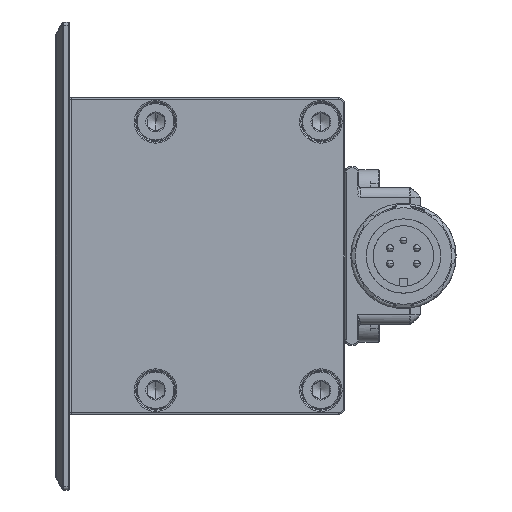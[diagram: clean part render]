
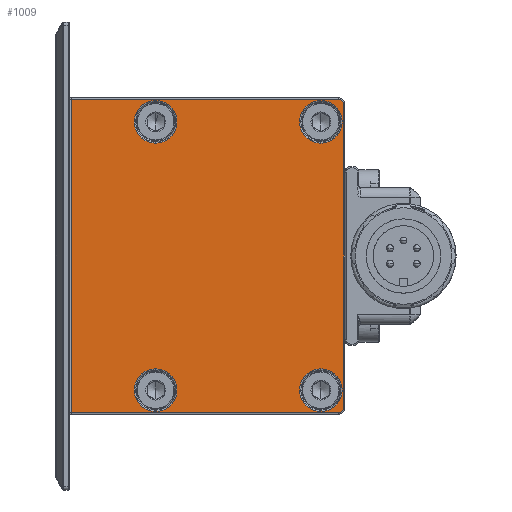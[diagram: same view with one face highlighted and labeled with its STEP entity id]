
A CAD part, left-side view. The second image highlights one B-rep face of the part: STEP entity #1009.
In plain terms, the highlighted planar face has unit normal (-1, 0, 0).
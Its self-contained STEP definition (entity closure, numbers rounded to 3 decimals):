
#249 = CARTESIAN_POINT ( 'NONE',  ( -125., -12.5, -19.5 ) ) ;
#286 = VERTEX_POINT ( 'NONE', #39481 ) ;
#677 = CARTESIAN_POINT ( 'NONE',  ( -125., -0.2, 22.8 ) ) ;
#725 = CARTESIAN_POINT ( 'NONE',  ( -125., -36.5, -19.5 ) ) ;
#1009 = ADVANCED_FACE ( 'NONE', ( #40998, #24252, #25090, #15061, #24656 ), #5603, .F. ) ;
#1252 = VERTEX_POINT ( 'NONE', #15472 ) ;
#1305 = VERTEX_POINT ( 'NONE', #16295 ) ;
#1923 = CARTESIAN_POINT ( 'NONE',  ( -125., -12.5, -22.6 ) ) ;
#2407 = EDGE_LOOP ( 'NONE', ( #4110, #33853 ) ) ;
#2636 = AXIS2_PLACEMENT_3D ( 'NONE', #22798, #5451, #31796 ) ;
#3445 = CARTESIAN_POINT ( 'NONE',  ( -125., -39.8, 22. ) ) ;
#3843 = CIRCLE ( 'NONE', #22314, 3.1 ) ;
#4110 = ORIENTED_EDGE ( 'NONE', *, *, #22986, .T. ) ;
#4475 = EDGE_CURVE ( 'NONE', #25481, #24957, #22811, .T. ) ;
#4557 = LINE ( 'NONE', #19650, #23207 ) ;
#4636 = CARTESIAN_POINT ( 'NONE',  ( -125., -36.5, 16.4 ) ) ;
#4676 = VECTOR ( 'NONE', #16361, 1000. ) ;
#5450 = ORIENTED_EDGE ( 'NONE', *, *, #35966, .F. ) ;
#5451 = DIRECTION ( 'NONE',  ( 1., 0., 0. ) ) ;
#5598 = VECTOR ( 'NONE', #40254, 1000. ) ;
#5603 = PLANE ( 'NONE',  #14639 ) ;
#6021 = EDGE_CURVE ( 'NONE', #13916, #6840, #36406, .T. ) ;
#6075 = EDGE_LOOP ( 'NONE', ( #20806, #9644, #5450, #27859, #28019, #22206 ) ) ;
#6267 = VERTEX_POINT ( 'NONE', #31460 ) ;
#6840 = VERTEX_POINT ( 'NONE', #4636 ) ;
#7007 = ORIENTED_EDGE ( 'NONE', *, *, #12437, .T. ) ;
#7033 = DIRECTION ( 'NONE',  ( 0., 0., 1. ) ) ;
#7100 = DIRECTION ( 'NONE',  ( 1., 0., 0. ) ) ;
#7684 = CIRCLE ( 'NONE', #22062, 3.1 ) ;
#9140 = AXIS2_PLACEMENT_3D ( 'NONE', #40066, #27778, #37057 ) ;
#9644 = ORIENTED_EDGE ( 'NONE', *, *, #21797, .F. ) ;
#10039 = EDGE_CURVE ( 'NONE', #33791, #10528, #13366, .T. ) ;
#10528 = VERTEX_POINT ( 'NONE', #34913 ) ;
#12074 = DIRECTION ( 'NONE',  ( 0., 0., 1. ) ) ;
#12437 = EDGE_CURVE ( 'NONE', #6267, #286, #21841, .T. ) ;
#12810 = DIRECTION ( 'NONE',  ( 1., 0., 0. ) ) ;
#13343 = DIRECTION ( 'NONE',  ( 0., 0., 1. ) ) ;
#13366 = LINE ( 'NONE', #677, #4676 ) ;
#13916 = VERTEX_POINT ( 'NONE', #22410 ) ;
#14447 = CARTESIAN_POINT ( 'NONE',  ( -125., -39.8, 22. ) ) ;
#14639 = AXIS2_PLACEMENT_3D ( 'NONE', #14641, #28494, #24472 ) ;
#14641 = CARTESIAN_POINT ( 'NONE',  ( -125., -40., 0. ) ) ;
#15061 = FACE_BOUND ( 'NONE', #35308, .T. ) ;
#15177 = DIRECTION ( 'NONE',  ( 0., 0., -1. ) ) ;
#15464 = AXIS2_PLACEMENT_3D ( 'NONE', #23650, #30680, #27465 ) ;
#15472 = CARTESIAN_POINT ( 'NONE',  ( -125., -39.8, -22. ) ) ;
#15571 = ORIENTED_EDGE ( 'NONE', *, *, #22355, .T. ) ;
#15967 = CIRCLE ( 'NONE', #29596, 3.1 ) ;
#16295 = CARTESIAN_POINT ( 'NONE',  ( -125., -39., -22.8 ) ) ;
#16361 = DIRECTION ( 'NONE',  ( 0., 0., -1. ) ) ;
#16919 = CARTESIAN_POINT ( 'NONE',  ( -125., -12.5, 16.4 ) ) ;
#17533 = DIRECTION ( 'NONE',  ( 1., 0., 0. ) ) ;
#17753 = AXIS2_PLACEMENT_3D ( 'NONE', #41509, #19413, #35710 ) ;
#17808 = EDGE_CURVE ( 'NONE', #1252, #1305, #33894, .T. ) ;
#17904 = AXIS2_PLACEMENT_3D ( 'NONE', #35241, #25943, #12074 ) ;
#19413 = DIRECTION ( 'NONE',  ( 1., 0., 0. ) ) ;
#19650 = CARTESIAN_POINT ( 'NONE',  ( -125., -0.2, 22.8 ) ) ;
#19826 = DIRECTION ( 'NONE',  ( 0., 0., -1. ) ) ;
#20236 = EDGE_LOOP ( 'NONE', ( #41569, #15571 ) ) ;
#20375 = CIRCLE ( 'NONE', #2636, 3.1 ) ;
#20806 = ORIENTED_EDGE ( 'NONE', *, *, #32406, .F. ) ;
#21465 = EDGE_CURVE ( 'NONE', #30012, #38538, #3843, .T. ) ;
#21797 = EDGE_CURVE ( 'NONE', #27182, #37492, #24393, .T. ) ;
#21841 = CIRCLE ( 'NONE', #17753, 3.1 ) ;
#22062 = AXIS2_PLACEMENT_3D ( 'NONE', #725, #29843, #19826 ) ;
#22206 = ORIENTED_EDGE ( 'NONE', *, *, #17808, .F. ) ;
#22314 = AXIS2_PLACEMENT_3D ( 'NONE', #249, #7100, #13343 ) ;
#22355 = EDGE_CURVE ( 'NONE', #6840, #13916, #40212, .T. ) ;
#22410 = CARTESIAN_POINT ( 'NONE',  ( -125., -36.5, 22.6 ) ) ;
#22798 = CARTESIAN_POINT ( 'NONE',  ( -125., -12.5, 19.5 ) ) ;
#22811 = CIRCLE ( 'NONE', #9140, 3.1 ) ;
#22986 = EDGE_CURVE ( 'NONE', #24957, #25481, #20375, .T. ) ;
#23207 = VECTOR ( 'NONE', #26016, 1000. ) ;
#23650 = CARTESIAN_POINT ( 'NONE',  ( -125., -39., -22. ) ) ;
#23756 = EDGE_CURVE ( 'NONE', #1305, #10528, #24110, .T. ) ;
#23845 = LINE ( 'NONE', #14447, #29136 ) ;
#24009 = EDGE_CURVE ( 'NONE', #286, #6267, #7684, .T. ) ;
#24110 = LINE ( 'NONE', #37250, #5598 ) ;
#24252 = FACE_BOUND ( 'NONE', #34634, .T. ) ;
#24393 = CIRCLE ( 'NONE', #27084, 0.8 ) ;
#24472 = DIRECTION ( 'NONE',  ( 0., 0., 1. ) ) ;
#24656 = FACE_OUTER_BOUND ( 'NONE', #6075, .T. ) ;
#24957 = VERTEX_POINT ( 'NONE', #40411 ) ;
#25090 = FACE_BOUND ( 'NONE', #2407, .T. ) ;
#25481 = VERTEX_POINT ( 'NONE', #16919 ) ;
#25637 = EDGE_CURVE ( 'NONE', #38538, #30012, #15967, .T. ) ;
#25943 = DIRECTION ( 'NONE',  ( 1., 0., 0. ) ) ;
#26016 = DIRECTION ( 'NONE',  ( 0., -1., 0. ) ) ;
#26361 = CARTESIAN_POINT ( 'NONE',  ( -125., -39., 22.8 ) ) ;
#27084 = AXIS2_PLACEMENT_3D ( 'NONE', #40468, #17533, #7033 ) ;
#27182 = VERTEX_POINT ( 'NONE', #26361 ) ;
#27465 = DIRECTION ( 'NONE',  ( 0., -1., 0. ) ) ;
#27778 = DIRECTION ( 'NONE',  ( 1., 0., 0. ) ) ;
#27859 = ORIENTED_EDGE ( 'NONE', *, *, #10039, .T. ) ;
#27915 = ORIENTED_EDGE ( 'NONE', *, *, #24009, .T. ) ;
#28019 = ORIENTED_EDGE ( 'NONE', *, *, #23756, .F. ) ;
#28494 = DIRECTION ( 'NONE',  ( 1., 0., 0. ) ) ;
#29136 = VECTOR ( 'NONE', #40185, 1000. ) ;
#29596 = AXIS2_PLACEMENT_3D ( 'NONE', #41322, #12810, #15177 ) ;
#29843 = DIRECTION ( 'NONE',  ( 1., 0., 0. ) ) ;
#30012 = VERTEX_POINT ( 'NONE', #36007 ) ;
#30680 = DIRECTION ( 'NONE',  ( 1., 0., 0. ) ) ;
#31460 = CARTESIAN_POINT ( 'NONE',  ( -125., -36.5, -16.4 ) ) ;
#31796 = DIRECTION ( 'NONE',  ( 0., 0., 1. ) ) ;
#32406 = EDGE_CURVE ( 'NONE', #37492, #1252, #23845, .T. ) ;
#32656 = CARTESIAN_POINT ( 'NONE',  ( -125., -36.5, 19.5 ) ) ;
#33791 = VERTEX_POINT ( 'NONE', #39045 ) ;
#33853 = ORIENTED_EDGE ( 'NONE', *, *, #4475, .T. ) ;
#33894 = CIRCLE ( 'NONE', #15464, 0.8 ) ;
#34634 = EDGE_LOOP ( 'NONE', ( #7007, #27915 ) ) ;
#34738 = AXIS2_PLACEMENT_3D ( 'NONE', #32656, #41691, #42340 ) ;
#34913 = CARTESIAN_POINT ( 'NONE',  ( -125., -0.2, -22.8 ) ) ;
#35241 = CARTESIAN_POINT ( 'NONE',  ( -125., -36.5, 19.5 ) ) ;
#35308 = EDGE_LOOP ( 'NONE', ( #35466, #38339 ) ) ;
#35466 = ORIENTED_EDGE ( 'NONE', *, *, #21465, .T. ) ;
#35710 = DIRECTION ( 'NONE',  ( 0., 0., 1. ) ) ;
#35966 = EDGE_CURVE ( 'NONE', #33791, #27182, #4557, .T. ) ;
#36007 = CARTESIAN_POINT ( 'NONE',  ( -125., -12.5, -16.4 ) ) ;
#36406 = CIRCLE ( 'NONE', #17904, 3.1 ) ;
#37057 = DIRECTION ( 'NONE',  ( 0., 0., -1. ) ) ;
#37250 = CARTESIAN_POINT ( 'NONE',  ( -125., -39., -22.8 ) ) ;
#37492 = VERTEX_POINT ( 'NONE', #3445 ) ;
#38339 = ORIENTED_EDGE ( 'NONE', *, *, #25637, .T. ) ;
#38538 = VERTEX_POINT ( 'NONE', #1923 ) ;
#39045 = CARTESIAN_POINT ( 'NONE',  ( -125., -0.2, 22.8 ) ) ;
#39481 = CARTESIAN_POINT ( 'NONE',  ( -125., -36.5, -22.6 ) ) ;
#40066 = CARTESIAN_POINT ( 'NONE',  ( -125., -12.5, 19.5 ) ) ;
#40185 = DIRECTION ( 'NONE',  ( 0., 0., -1. ) ) ;
#40212 = CIRCLE ( 'NONE', #34738, 3.1 ) ;
#40254 = DIRECTION ( 'NONE',  ( 0., 1., 0. ) ) ;
#40411 = CARTESIAN_POINT ( 'NONE',  ( -125., -12.5, 22.6 ) ) ;
#40468 = CARTESIAN_POINT ( 'NONE',  ( -125., -39., 22. ) ) ;
#40998 = FACE_BOUND ( 'NONE', #20236, .T. ) ;
#41322 = CARTESIAN_POINT ( 'NONE',  ( -125., -12.5, -19.5 ) ) ;
#41509 = CARTESIAN_POINT ( 'NONE',  ( -125., -36.5, -19.5 ) ) ;
#41569 = ORIENTED_EDGE ( 'NONE', *, *, #6021, .T. ) ;
#41691 = DIRECTION ( 'NONE',  ( 1., 0., 0. ) ) ;
#42340 = DIRECTION ( 'NONE',  ( 0., 0., -1. ) ) ;
